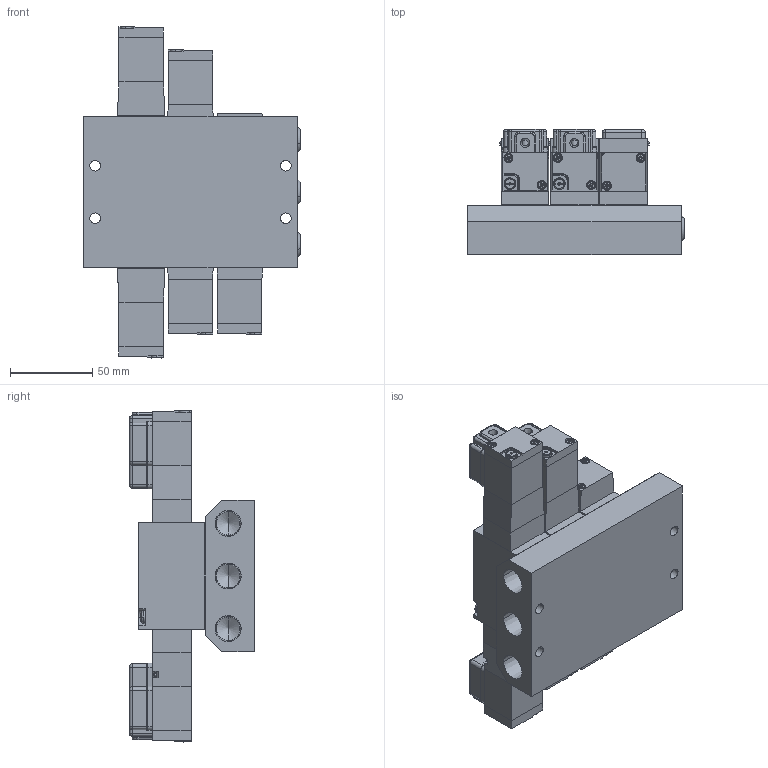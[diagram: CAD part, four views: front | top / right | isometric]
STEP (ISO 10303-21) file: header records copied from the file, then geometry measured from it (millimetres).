
FILE_DESCRIPTION (( 'STEP AP203' ), '1' );
FILE_NAME ('MFU#-RC08-G.STEP', '2016-02-04T05:40:31', ( 'Sam Lin' ), ( '' ), 'SwSTEP 2.0', 'SolidWorks 2013', '' );
FILE_SCHEMA (( 'CONFIG_CONTROL_DESIGN' ));
Length unit declared in the file: metre
Products named in the file (17): PCS2406-3; PC6-M4; PCS2406-8; PCS2406-9; MFU#-RC08; PC6-M3; RC08-1; RC08-墊片; RC08-MARK; PC08-4; 承頭3-8; ISO 7045 - M4 x 40; PCS2406-3-小圓珠; MFU#-RC08-G; PC08-5; PCS2406-7; RC08-2
Assembly tree (70 placements, depth 2):
  MFU#-RC08-G
    MFU#-RC08
    RC08-1  x3
    PC08-4  x5
    PCS2406-3-小圓珠  x6
    PCS2406-7  x5
    PCS2406-3  x5
    PC6-M4  x5
    PCS2406-8  x5
    PCS2406-9  x5
    PC6-M3  x12
    RC08-MARK  x3
    ISO 7045 - M4 x 40  x6
    PC08-5  x2
    RC08-2
    RC08-墊片  x3
    承頭3-8  x3
Bounding box: 131.89 x 76 x 202 mm (x, y, z)
Volume: 736076.6 mm3; surface area: 191142.3 mm2
Topology: 88 solids, 88 shells, 2085 faces, 5094 edges, 3155 vertices
Faces by surface type: plane 1066, cylinder 466, cone 287, bspline 246, torus 20
Entity records: 19071 total; most frequent: CARTESIAN_POINT 3960, DIRECTION 2534, ORIENTED_EDGE 2384, EDGE_CURVE 1192, AXIS2_PLACEMENT_3D 927, VERTEX_POINT 769, LINE 680, VECTOR 680
